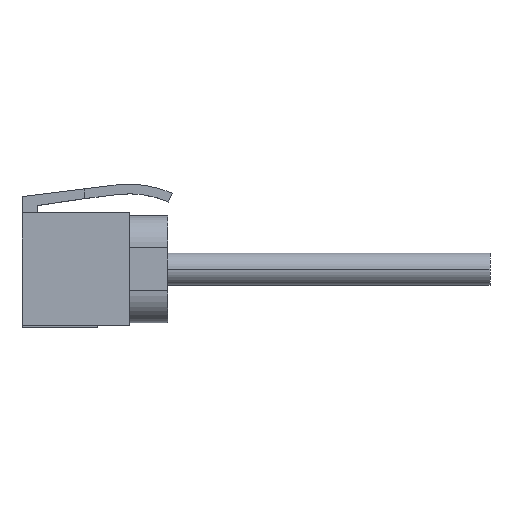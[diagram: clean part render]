
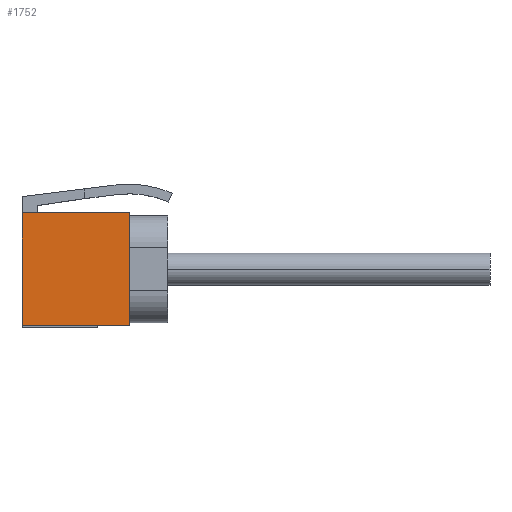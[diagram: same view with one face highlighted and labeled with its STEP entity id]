
A CAD part, top view. The second image highlights one B-rep face of the part: STEP entity #1752.
In plain terms, the highlighted planar face has unit normal (0, 0, 1).
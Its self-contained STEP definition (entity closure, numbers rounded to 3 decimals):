
#24 = LINE ( 'NONE', #107, #106 ) ;
#105 = DIRECTION ( 'NONE',  ( 0., 1., 0. ) ) ;
#106 = VECTOR ( 'NONE', #105, 1000. ) ;
#107 = CARTESIAN_POINT ( 'NONE',  ( 10., -5.25, 5. ) ) ;
#277 = CARTESIAN_POINT ( 'NONE',  ( 0., 5.25, 5. ) ) ;
#278 = DIRECTION ( 'NONE',  ( 0., -1., 0. ) ) ;
#279 = VECTOR ( 'NONE', #278, 1000. ) ;
#280 = CARTESIAN_POINT ( 'NONE',  ( 0., 5.25, 5. ) ) ;
#281 = LINE ( 'NONE', #280, #279 ) ;
#1009 = DIRECTION ( 'NONE',  ( 1., 0., 0. ) ) ;
#1010 = DIRECTION ( 'NONE',  ( 0., 0., 1. ) ) ;
#1011 = CARTESIAN_POINT ( 'NONE',  ( 0., -5.25, 5. ) ) ;
#1012 = AXIS2_PLACEMENT_3D ( 'NONE', #1011, #1010, #1009 ) ;
#1013 = PLANE ( 'NONE',  #1012 ) ;
#1014 = FACE_OUTER_BOUND ( 'NONE', #1753, .T. ) ;
#1071 = DIRECTION ( 'NONE',  ( -1., 0., 0. ) ) ;
#1072 = VECTOR ( 'NONE', #1071, 1000. ) ;
#1073 = CARTESIAN_POINT ( 'NONE',  ( 0., 5.25, 5. ) ) ;
#1074 = LINE ( 'NONE', #1073, #1072 ) ;
#1159 = CARTESIAN_POINT ( 'NONE',  ( 0., -5.25, 5. ) ) ;
#1160 = DIRECTION ( 'NONE',  ( 1., 0., 0. ) ) ;
#1161 = VECTOR ( 'NONE', #1160, 1000. ) ;
#1162 = CARTESIAN_POINT ( 'NONE',  ( 0., -5.25, 5. ) ) ;
#1163 = LINE ( 'NONE', #1162, #1161 ) ;
#1164 = CARTESIAN_POINT ( 'NONE',  ( 10., -5.25, 5. ) ) ;
#1337 = VERTEX_POINT ( 'NONE', #2292 ) ;
#1411 = EDGE_CURVE ( 'NONE', #1412, #2201, #281, .T. ) ;
#1412 = VERTEX_POINT ( 'NONE', #277 ) ;
#1548 = EDGE_CURVE ( 'NONE', #2198, #1337, #24, .T. ) ;
#1731 = ORIENTED_EDGE ( 'NONE', *, *, #1768, .T. ) ;
#1732 = ORIENTED_EDGE ( 'NONE', *, *, #1411, .T. ) ;
#1752 = ADVANCED_FACE ( 'NONE', ( #1014 ), #1013, .T. ) ;
#1753 = EDGE_LOOP ( 'NONE', ( #1754, #1755, #1731, #1732 ) ) ;
#1754 = ORIENTED_EDGE ( 'NONE', *, *, #2200, .T. ) ;
#1755 = ORIENTED_EDGE ( 'NONE', *, *, #1548, .T. ) ;
#1768 = EDGE_CURVE ( 'NONE', #1337, #1412, #1074, .T. ) ;
#2198 = VERTEX_POINT ( 'NONE', #1164 ) ;
#2200 = EDGE_CURVE ( 'NONE', #2201, #2198, #1163, .T. ) ;
#2201 = VERTEX_POINT ( 'NONE', #1159 ) ;
#2292 = CARTESIAN_POINT ( 'NONE',  ( 10., 5.25, 5. ) ) ;
